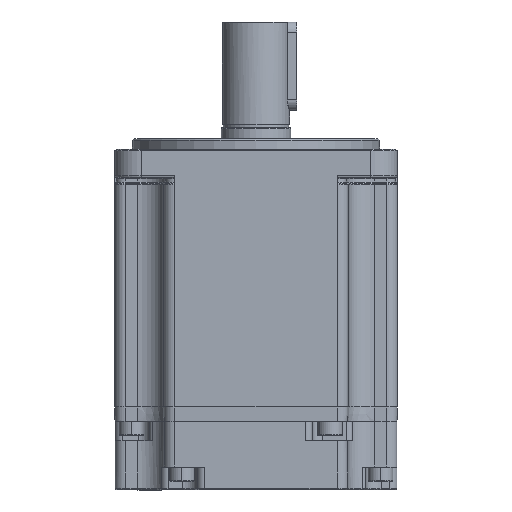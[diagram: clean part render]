
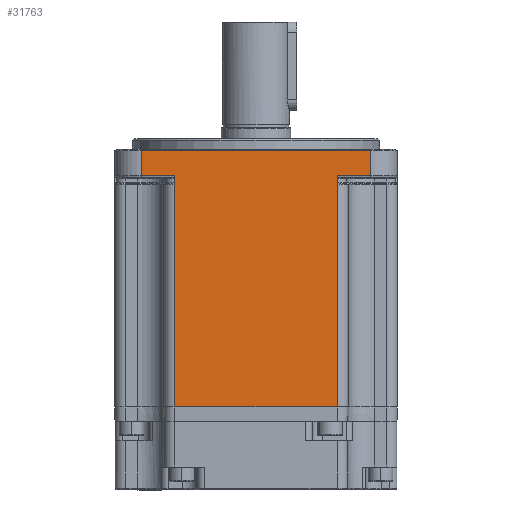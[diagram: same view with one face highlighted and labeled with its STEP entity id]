
A CAD part, left-side view. The second image highlights one B-rep face of the part: STEP entity #31763.
In plain terms, the highlighted planar face has unit normal (-1, 0, 0) as drawn and (0, 1, 0) by its records, which use the part's own axes.
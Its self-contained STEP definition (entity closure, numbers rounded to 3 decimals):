
#546 = DIRECTION ( 'NONE',  ( 0., 0., 1. ) ) ;
#1831 = CARTESIAN_POINT ( 'NONE',  ( 23.05, 40., 65. ) ) ;
#5079 = VERTEX_POINT ( 'NONE', #96763 ) ;
#5354 = ORIENTED_EDGE ( 'NONE', *, *, #16088, .T. ) ;
#6325 = CARTESIAN_POINT ( 'NONE',  ( -32.5, 40., 72.5 ) ) ;
#7949 = VECTOR ( 'NONE', #91445, 1000. ) ;
#8158 = VERTEX_POINT ( 'NONE', #119341 ) ;
#10303 = PLANE ( 'NONE',  #42994 ) ;
#12802 = DIRECTION ( 'NONE',  ( -1., 0., 0. ) ) ;
#13951 = CARTESIAN_POINT ( 'NONE',  ( 32.5, 40., 65. ) ) ;
#16088 = EDGE_CURVE ( 'NONE', #40020, #8158, #45289, .T. ) ;
#17730 = LINE ( 'NONE', #1831, #20635 ) ;
#18019 = ORIENTED_EDGE ( 'NONE', *, *, #75582, .T. ) ;
#20395 = VECTOR ( 'NONE', #80073, 1000. ) ;
#20635 = VECTOR ( 'NONE', #67113, 1000. ) ;
#20733 = VECTOR ( 'NONE', #58936, 1000. ) ;
#20937 = DIRECTION ( 'NONE',  ( 1., 0., 0. ) ) ;
#21456 = CARTESIAN_POINT ( 'NONE',  ( -23.05, 40., 65. ) ) ;
#28825 = VERTEX_POINT ( 'NONE', #79297 ) ;
#29484 = CARTESIAN_POINT ( 'NONE',  ( 23.05, 40., 0. ) ) ;
#31763 = ADVANCED_FACE ( 'NONE', ( #71163 ), #10303, .F. ) ;
#33194 = CARTESIAN_POINT ( 'NONE',  ( 23.05, 40., 65.4 ) ) ;
#35901 = VECTOR ( 'NONE', #69903, 1000. ) ;
#39030 = CARTESIAN_POINT ( 'NONE',  ( -23.05, 40., 0. ) ) ;
#40020 = VERTEX_POINT ( 'NONE', #91403 ) ;
#42994 = AXIS2_PLACEMENT_3D ( 'NONE', #47840, #113055, #57236 ) ;
#43475 = ORIENTED_EDGE ( 'NONE', *, *, #52342, .T. ) ;
#45289 = LINE ( 'NONE', #33194, #20395 ) ;
#47840 = CARTESIAN_POINT ( 'NONE',  ( 40., 40., 65. ) ) ;
#47850 = CARTESIAN_POINT ( 'NONE',  ( 23.05, 40., 63.1 ) ) ;
#48265 = ORIENTED_EDGE ( 'NONE', *, *, #61933, .T. ) ;
#48418 = LINE ( 'NONE', #65806, #73274 ) ;
#49716 = ORIENTED_EDGE ( 'NONE', *, *, #88369, .T. ) ;
#52342 = EDGE_CURVE ( 'NONE', #28825, #113217, #115966, .T. ) ;
#52382 = CARTESIAN_POINT ( 'NONE',  ( 23.05, 40., 65. ) ) ;
#57236 = DIRECTION ( 'NONE',  ( 1., 0., 0. ) ) ;
#57612 = VERTEX_POINT ( 'NONE', #29484 ) ;
#58936 = DIRECTION ( 'NONE',  ( 0., 0., 1. ) ) ;
#60989 = ORIENTED_EDGE ( 'NONE', *, *, #107345, .T. ) ;
#61933 = EDGE_CURVE ( 'NONE', #8158, #75418, #17730, .T. ) ;
#63836 = LINE ( 'NONE', #21456, #85654 ) ;
#65806 = CARTESIAN_POINT ( 'NONE',  ( -32.5, 40., 65. ) ) ;
#66206 = ORIENTED_EDGE ( 'NONE', *, *, #84421, .T. ) ;
#66699 = CARTESIAN_POINT ( 'NONE',  ( -32.5, 40., 65.4 ) ) ;
#67113 = DIRECTION ( 'NONE',  ( 0., 0., -1. ) ) ;
#68314 = CARTESIAN_POINT ( 'NONE',  ( -23.05, 40., 65. ) ) ;
#68745 = CARTESIAN_POINT ( 'NONE',  ( 40., 40., 0. ) ) ;
#69903 = DIRECTION ( 'NONE',  ( 0., 0., -1. ) ) ;
#71163 = FACE_OUTER_BOUND ( 'NONE', #111561, .T. ) ;
#71212 = EDGE_CURVE ( 'NONE', #57612, #117961, #86142, .T. ) ;
#72052 = ORIENTED_EDGE ( 'NONE', *, *, #116767, .T. ) ;
#72778 = CARTESIAN_POINT ( 'NONE',  ( -32.5, 40., 65.4 ) ) ;
#73274 = VECTOR ( 'NONE', #546, 1000. ) ;
#75418 = VERTEX_POINT ( 'NONE', #47850 ) ;
#75582 = EDGE_CURVE ( 'NONE', #98096, #40020, #107378, .T. ) ;
#77135 = ORIENTED_EDGE ( 'NONE', *, *, #71212, .T. ) ;
#79297 = CARTESIAN_POINT ( 'NONE',  ( -23.05, 40., 65.4 ) ) ;
#80073 = DIRECTION ( 'NONE',  ( -1., 0., 0. ) ) ;
#80743 = VECTOR ( 'NONE', #20937, 1000. ) ;
#81602 = LINE ( 'NONE', #52382, #109324 ) ;
#84421 = EDGE_CURVE ( 'NONE', #5079, #28825, #63836, .T. ) ;
#85654 = VECTOR ( 'NONE', #86694, 1000. ) ;
#86142 = LINE ( 'NONE', #68745, #89119 ) ;
#86694 = DIRECTION ( 'NONE',  ( 0., 0., 1. ) ) ;
#86962 = ORIENTED_EDGE ( 'NONE', *, *, #103060, .T. ) ;
#88369 = EDGE_CURVE ( 'NONE', #75418, #57612, #81602, .T. ) ;
#89119 = VECTOR ( 'NONE', #12802, 1000. ) ;
#91403 = CARTESIAN_POINT ( 'NONE',  ( 32.5, 40., 65.4 ) ) ;
#91445 = DIRECTION ( 'NONE',  ( -1., 0., 0. ) ) ;
#92258 = LINE ( 'NONE', #68314, #20733 ) ;
#94946 = LINE ( 'NONE', #104975, #80743 ) ;
#96763 = CARTESIAN_POINT ( 'NONE',  ( -23.05, 40., 63.1 ) ) ;
#97279 = VERTEX_POINT ( 'NONE', #6325 ) ;
#98096 = VERTEX_POINT ( 'NONE', #117449 ) ;
#98856 = DIRECTION ( 'NONE',  ( 0., 0., -1. ) ) ;
#103060 = EDGE_CURVE ( 'NONE', #113217, #97279, #48418, .T. ) ;
#104975 = CARTESIAN_POINT ( 'NONE',  ( 32.5, 40., 72.5 ) ) ;
#107345 = EDGE_CURVE ( 'NONE', #117961, #5079, #92258, .T. ) ;
#107378 = LINE ( 'NONE', #13951, #35901 ) ;
#109324 = VECTOR ( 'NONE', #98856, 1000. ) ;
#111561 = EDGE_LOOP ( 'NONE', ( #66206, #43475, #86962, #72052, #18019, #5354, #48265, #49716, #77135, #60989 ) ) ;
#113055 = DIRECTION ( 'NONE',  ( 0., -1., 0. ) ) ;
#113217 = VERTEX_POINT ( 'NONE', #66699 ) ;
#115966 = LINE ( 'NONE', #72778, #7949 ) ;
#116767 = EDGE_CURVE ( 'NONE', #97279, #98096, #94946, .T. ) ;
#117449 = CARTESIAN_POINT ( 'NONE',  ( 32.5, 40., 72.5 ) ) ;
#117961 = VERTEX_POINT ( 'NONE', #39030 ) ;
#119341 = CARTESIAN_POINT ( 'NONE',  ( 23.05, 40., 65.4 ) ) ;
